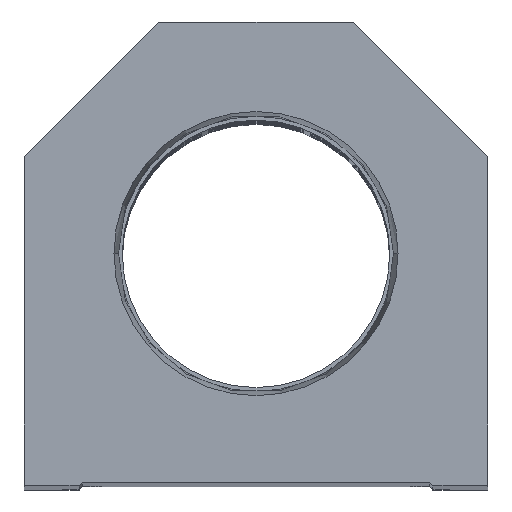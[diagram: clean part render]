
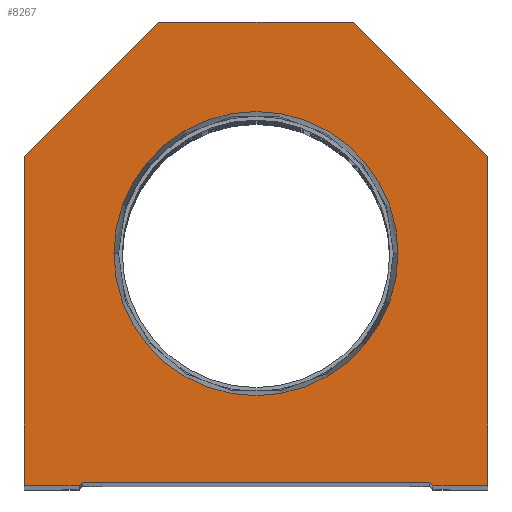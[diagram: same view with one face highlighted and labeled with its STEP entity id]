
A CAD part, top view. The second image highlights one B-rep face of the part: STEP entity #8267.
In plain terms, the highlighted planar face has unit normal (0, 0, 1).
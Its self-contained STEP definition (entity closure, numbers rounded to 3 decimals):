
#9 = ORIENTED_EDGE ( 'NONE', *, *, #14310, .F. ) ;
#412 = CARTESIAN_POINT ( 'NONE',  ( -38.1, 54.1, 0. ) ) ;
#996 = CARTESIAN_POINT ( 'NONE',  ( 28.6, 0., 0. ) ) ;
#1054 = ORIENTED_EDGE ( 'NONE', *, *, #26476, .T. ) ;
#1139 = ORIENTED_EDGE ( 'NONE', *, *, #21564, .T. ) ;
#1620 = VERTEX_POINT ( 'NONE', #22059 ) ;
#2017 = CARTESIAN_POINT ( 'NONE',  ( 0., 38.1, 0. ) ) ;
#2039 = ORIENTED_EDGE ( 'NONE', *, *, #2876, .T. ) ;
#2563 = CARTESIAN_POINT ( 'NONE',  ( -14.55, 14.55, 0. ) ) ;
#2624 = LINE ( 'NONE', #13218, #17649 ) ;
#2638 = LINE ( 'NONE', #996, #18632 ) ;
#2876 = EDGE_CURVE ( 'NONE', #20510, #17343, #12077, .T. ) ;
#3046 = CIRCLE ( 'NONE', #15331, 23.374 ) ;
#3377 = EDGE_CURVE ( 'NONE', #13346, #9720, #20883, .T. ) ;
#3406 = CARTESIAN_POINT ( 'NONE',  ( -23.374, 38.1, 0. ) ) ;
#3603 = CARTESIAN_POINT ( 'NONE',  ( 14.55, 14.55, 0. ) ) ;
#3977 = DIRECTION ( 'NONE',  ( 1., 0., 0. ) ) ;
#4607 = ORIENTED_EDGE ( 'NONE', *, *, #5962, .T. ) ;
#4859 = DIRECTION ( 'NONE',  ( -1., 0., 0. ) ) ;
#5363 = LINE ( 'NONE', #18051, #6287 ) ;
#5507 = VECTOR ( 'NONE', #22937, 1000. ) ;
#5733 = DIRECTION ( 'NONE',  ( 0., -1., 0. ) ) ;
#5962 = EDGE_CURVE ( 'NONE', #19443, #26245, #5363, .T. ) ;
#6022 = DIRECTION ( 'NONE',  ( 0., 0., 1. ) ) ;
#6287 = VECTOR ( 'NONE', #3977, 1000. ) ;
#6429 = DIRECTION ( 'NONE',  ( 1., 0., 0. ) ) ;
#6956 = CARTESIAN_POINT ( 'NONE',  ( 16., 76.2, 0. ) ) ;
#7298 = VERTEX_POINT ( 'NONE', #12033 ) ;
#7461 = DIRECTION ( 'NONE',  ( 0.707, -0.707, 0. ) ) ;
#7711 = DIRECTION ( 'NONE',  ( 0., 0., 1. ) ) ;
#8057 = EDGE_LOOP ( 'NONE', ( #13181, #24198, #4607, #10292, #1054, #13095, #12339, #1139, #10500, #2039 ) ) ;
#8267 = ADVANCED_FACE ( 'NONE', ( #20421, #12160 ), #20555, .T. ) ;
#8327 = DIRECTION ( 'NONE',  ( 1., 0., 0. ) ) ;
#8755 = VECTOR ( 'NONE', #7461, 1000. ) ;
#9720 = VERTEX_POINT ( 'NONE', #9746 ) ;
#9746 = CARTESIAN_POINT ( 'NONE',  ( 16., 76.2, 0. ) ) ;
#9842 = CARTESIAN_POINT ( 'NONE',  ( -38.1, 54.1, 0. ) ) ;
#10292 = ORIENTED_EDGE ( 'NONE', *, *, #18387, .T. ) ;
#10500 = ORIENTED_EDGE ( 'NONE', *, *, #11091, .T. ) ;
#11091 = EDGE_CURVE ( 'NONE', #15769, #20510, #26360, .T. ) ;
#11775 = DIRECTION ( 'NONE',  ( 0., 1., 0. ) ) ;
#11814 = CARTESIAN_POINT ( 'NONE',  ( -16., 76.2, 0. ) ) ;
#12033 = CARTESIAN_POINT ( 'NONE',  ( 23.374, 38.1, 0. ) ) ;
#12077 = LINE ( 'NONE', #20194, #22622 ) ;
#12160 = FACE_OUTER_BOUND ( 'NONE', #8057, .T. ) ;
#12339 = ORIENTED_EDGE ( 'NONE', *, *, #3377, .T. ) ;
#12413 = DIRECTION ( 'NONE',  ( 0., 0., 1. ) ) ;
#12887 = CARTESIAN_POINT ( 'NONE',  ( 38.1, 54.1, 0. ) ) ;
#13095 = ORIENTED_EDGE ( 'NONE', *, *, #14338, .T. ) ;
#13181 = ORIENTED_EDGE ( 'NONE', *, *, #21937, .T. ) ;
#13218 = CARTESIAN_POINT ( 'NONE',  ( -28.6, 0., 0. ) ) ;
#13289 = DIRECTION ( 'NONE',  ( 0.707, 0.707, 0. ) ) ;
#13346 = VERTEX_POINT ( 'NONE', #16320 ) ;
#13478 = EDGE_CURVE ( 'NONE', #7298, #22285, #3046, .T. ) ;
#13803 = CARTESIAN_POINT ( 'NONE',  ( 28.6, 0.5, 0. ) ) ;
#14310 = EDGE_CURVE ( 'NONE', #22285, #7298, #15812, .T. ) ;
#14338 = EDGE_CURVE ( 'NONE', #17992, #13346, #16289, .T. ) ;
#14591 = DIRECTION ( 'NONE',  ( 1., 0., 0. ) ) ;
#14999 = DIRECTION ( 'NONE',  ( 1., 0., 0. ) ) ;
#15152 = DIRECTION ( 'NONE',  ( 1., 0., 0. ) ) ;
#15331 = AXIS2_PLACEMENT_3D ( 'NONE', #16457, #6022, #8327 ) ;
#15464 = LINE ( 'NONE', #6956, #23376 ) ;
#15769 = VERTEX_POINT ( 'NONE', #11814 ) ;
#15812 = CIRCLE ( 'NONE', #21990, 23.374 ) ;
#16027 = CARTESIAN_POINT ( 'NONE',  ( 38.1, 0., 0. ) ) ;
#16111 = LINE ( 'NONE', #3603, #8755 ) ;
#16121 = EDGE_LOOP ( 'NONE', ( #25563, #9 ) ) ;
#16289 = LINE ( 'NONE', #16027, #25523 ) ;
#16320 = CARTESIAN_POINT ( 'NONE',  ( 38.1, 54.1, 0. ) ) ;
#16457 = CARTESIAN_POINT ( 'NONE',  ( 0., 38.1, 0. ) ) ;
#17343 = VERTEX_POINT ( 'NONE', #20865 ) ;
#17649 = VECTOR ( 'NONE', #14999, 1000. ) ;
#17992 = VERTEX_POINT ( 'NONE', #26489 ) ;
#18051 = CARTESIAN_POINT ( 'NONE',  ( -28.6, 0.5, 0. ) ) ;
#18387 = EDGE_CURVE ( 'NONE', #26245, #25490, #16111, .T. ) ;
#18632 = VECTOR ( 'NONE', #15152, 1000. ) ;
#19443 = VERTEX_POINT ( 'NONE', #26154 ) ;
#20194 = CARTESIAN_POINT ( 'NONE',  ( -38.1, 0., 0. ) ) ;
#20421 = FACE_BOUND ( 'NONE', #16121, .T. ) ;
#20510 = VERTEX_POINT ( 'NONE', #412 ) ;
#20555 = PLANE ( 'NONE',  #25750 ) ;
#20865 = CARTESIAN_POINT ( 'NONE',  ( -38.1, 0., 0. ) ) ;
#20883 = LINE ( 'NONE', #12887, #5507 ) ;
#21564 = EDGE_CURVE ( 'NONE', #9720, #15769, #15464, .T. ) ;
#21937 = EDGE_CURVE ( 'NONE', #17343, #1620, #2624, .T. ) ;
#21990 = AXIS2_PLACEMENT_3D ( 'NONE', #2017, #7711, #6429 ) ;
#22059 = CARTESIAN_POINT ( 'NONE',  ( -29.1, 0., 0. ) ) ;
#22285 = VERTEX_POINT ( 'NONE', #3406 ) ;
#22619 = CARTESIAN_POINT ( 'NONE',  ( 0., 0., 0. ) ) ;
#22622 = VECTOR ( 'NONE', #5733, 1000. ) ;
#22937 = DIRECTION ( 'NONE',  ( -0.707, 0.707, 0. ) ) ;
#23376 = VECTOR ( 'NONE', #4859, 1000. ) ;
#23379 = EDGE_CURVE ( 'NONE', #1620, #19443, #23761, .T. ) ;
#23761 = LINE ( 'NONE', #2563, #26519 ) ;
#24198 = ORIENTED_EDGE ( 'NONE', *, *, #23379, .T. ) ;
#24318 = DIRECTION ( 'NONE',  ( -0.707, -0.707, 0. ) ) ;
#24934 = VECTOR ( 'NONE', #24318, 1000. ) ;
#25490 = VERTEX_POINT ( 'NONE', #26960 ) ;
#25523 = VECTOR ( 'NONE', #11775, 1000. ) ;
#25563 = ORIENTED_EDGE ( 'NONE', *, *, #13478, .F. ) ;
#25750 = AXIS2_PLACEMENT_3D ( 'NONE', #22619, #12413, #14591 ) ;
#26154 = CARTESIAN_POINT ( 'NONE',  ( -28.6, 0.5, 0. ) ) ;
#26245 = VERTEX_POINT ( 'NONE', #13803 ) ;
#26360 = LINE ( 'NONE', #9842, #24934 ) ;
#26476 = EDGE_CURVE ( 'NONE', #25490, #17992, #2638, .T. ) ;
#26489 = CARTESIAN_POINT ( 'NONE',  ( 38.1, 0., 0. ) ) ;
#26519 = VECTOR ( 'NONE', #13289, 1000. ) ;
#26960 = CARTESIAN_POINT ( 'NONE',  ( 29.1, 0., 0. ) ) ;
